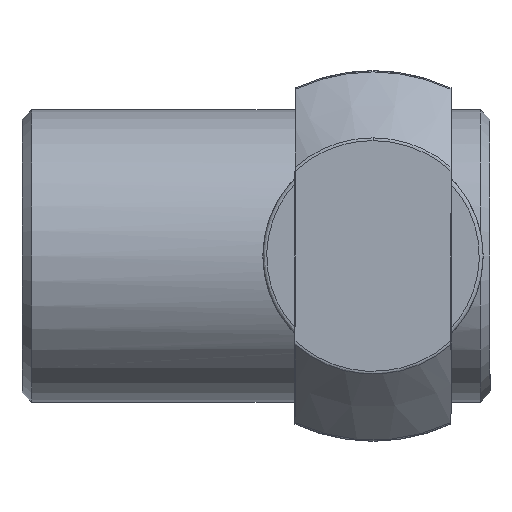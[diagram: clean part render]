
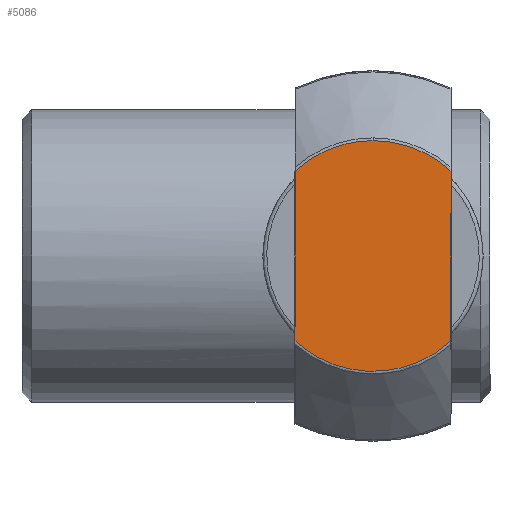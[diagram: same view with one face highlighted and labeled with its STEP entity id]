
A CAD part, left-side view. The second image highlights one B-rep face of the part: STEP entity #5086.
In plain terms, the highlighted planar face has unit normal (-1, 0, 0) as drawn and (1, 0, 0) by its records, which use the part's own axes.
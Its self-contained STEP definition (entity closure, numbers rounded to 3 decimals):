
#575 = ORIENTED_EDGE ( 'NONE', *, *, #2314, .T. ) ;
#795 = LINE ( 'NONE', #4157, #5303 ) ;
#883 = LINE ( 'NONE', #7209, #2830 ) ;
#1094 = CARTESIAN_POINT ( 'NONE',  ( 0., -4., -4.36 ) ) ;
#1404 = EDGE_LOOP ( 'NONE', ( #10593, #6219, #3437, #7712, #575 ) ) ;
#1460 =( BOUNDED_CURVE ( )  B_SPLINE_CURVE ( 3, ( #6066, #10370, #6944, #1827 ),
 .UNSPECIFIED., .F., .F. ) 
 B_SPLINE_CURVE_WITH_KNOTS ( ( 4, 4 ),
 ( 0., 1.032 ),
 .UNSPECIFIED. ) 
 CURVE ( )  GEOMETRIC_REPRESENTATION_ITEM ( )  RATIONAL_B_SPLINE_CURVE ( ( 1., 0.955, 0.955, 1. ) ) 
 REPRESENTATION_ITEM ( '' )  );
#1760 = VERTEX_POINT ( 'NONE', #3230 ) ;
#1827 = CARTESIAN_POINT ( 'NONE',  ( 0., 4., 4.36 ) ) ;
#1878 = CARTESIAN_POINT ( 'NONE',  ( 0., 0., 0. ) ) ;
#2191 = CARTESIAN_POINT ( 'NONE',  ( 0., -4., 4.36 ) ) ;
#2238 = CARTESIAN_POINT ( 'NONE',  ( 0., -1.499, 5.917 ) ) ;
#2314 = EDGE_CURVE ( 'NONE', #6435, #1760, #883, .T. ) ;
#2485 = FACE_OUTER_BOUND ( 'NONE', #1404, .T. ) ;
#2705 = CARTESIAN_POINT ( 'NONE',  ( 0., 4., -4.36 ) ) ;
#2722 = DIRECTION ( 'NONE',  ( 0., 0., 1. ) ) ;
#2779 =( BOUNDED_CURVE ( )  B_SPLINE_CURVE ( 3, ( #4807, #7381, #2238, #5683 ),
 .UNSPECIFIED., .F., .T. ) 
 B_SPLINE_CURVE_WITH_KNOTS ( ( 4, 4 ),
 ( -0.032, 1. ),
 .UNSPECIFIED. ) 
 CURVE ( )  GEOMETRIC_REPRESENTATION_ITEM ( )  RATIONAL_B_SPLINE_CURVE ( ( 1., 0.955, 0.955, 1. ) ) 
 REPRESENTATION_ITEM ( '' )  );
#2830 = VECTOR ( 'NONE', #4564, 1000. ) ;
#3230 = CARTESIAN_POINT ( 'NONE',  ( 0., 4., 4.36 ) ) ;
#3358 =( BOUNDED_CURVE ( )  B_SPLINE_CURVE ( 3, ( #2705, #6982, #4415, #10441 ),
 .UNSPECIFIED., .F., .T. ) 
 B_SPLINE_CURVE_WITH_KNOTS ( ( 4, 4 ),
 ( -0.016, 1.016 ),
 .UNSPECIFIED. ) 
 CURVE ( )  GEOMETRIC_REPRESENTATION_ITEM ( )  RATIONAL_B_SPLINE_CURVE ( ( 1., 0.825, 0.825, 1. ) ) 
 REPRESENTATION_ITEM ( '' )  );
#3437 = ORIENTED_EDGE ( 'NONE', *, *, #5385, .T. ) ;
#3519 = PLANE ( 'NONE',  #5383 ) ;
#4157 = CARTESIAN_POINT ( 'NONE',  ( 0., -4., 8.663 ) ) ;
#4415 = CARTESIAN_POINT ( 'NONE',  ( 0., -1.617, -6.546 ) ) ;
#4564 = DIRECTION ( 'NONE',  ( 0., 0., 1. ) ) ;
#4807 = CARTESIAN_POINT ( 'NONE',  ( 0., -4., 4.36 ) ) ;
#5086 = ADVANCED_FACE ( 'NONE', ( #2485 ), #3519, .F. ) ;
#5281 = EDGE_CURVE ( 'NONE', #10610, #5437, #2779, .T. ) ;
#5303 = VECTOR ( 'NONE', #9277, 1000. ) ;
#5383 = AXIS2_PLACEMENT_3D ( 'NONE', #1878, #7883, #2722 ) ;
#5385 = EDGE_CURVE ( 'NONE', #10610, #6790, #795, .T. ) ;
#5437 = VERTEX_POINT ( 'NONE', #10218 ) ;
#5683 = CARTESIAN_POINT ( 'NONE',  ( 0., 0., 5.917 ) ) ;
#6066 = CARTESIAN_POINT ( 'NONE',  ( 0., 0., 5.917 ) ) ;
#6219 = ORIENTED_EDGE ( 'NONE', *, *, #5281, .F. ) ;
#6435 = VERTEX_POINT ( 'NONE', #9340 ) ;
#6692 = EDGE_CURVE ( 'NONE', #5437, #1760, #1460, .T. ) ;
#6777 = EDGE_CURVE ( 'NONE', #6435, #6790, #3358, .T. ) ;
#6790 = VERTEX_POINT ( 'NONE', #1094 ) ;
#6944 = CARTESIAN_POINT ( 'NONE',  ( 0., 2.896, 5.374 ) ) ;
#6982 = CARTESIAN_POINT ( 'NONE',  ( 0., 1.617, -6.546 ) ) ;
#7209 = CARTESIAN_POINT ( 'NONE',  ( 0., 4., 8.663 ) ) ;
#7381 = CARTESIAN_POINT ( 'NONE',  ( 0., -2.896, 5.374 ) ) ;
#7712 = ORIENTED_EDGE ( 'NONE', *, *, #6777, .F. ) ;
#7883 = DIRECTION ( 'NONE',  ( -1., 0., 0. ) ) ;
#9277 = DIRECTION ( 'NONE',  ( 0., 0., -1. ) ) ;
#9340 = CARTESIAN_POINT ( 'NONE',  ( 0., 4., -4.36 ) ) ;
#10218 = CARTESIAN_POINT ( 'NONE',  ( 0., 0., 5.917 ) ) ;
#10370 = CARTESIAN_POINT ( 'NONE',  ( 0., 1.499, 5.917 ) ) ;
#10441 = CARTESIAN_POINT ( 'NONE',  ( 0., -4., -4.36 ) ) ;
#10593 = ORIENTED_EDGE ( 'NONE', *, *, #6692, .F. ) ;
#10610 = VERTEX_POINT ( 'NONE', #2191 ) ;
